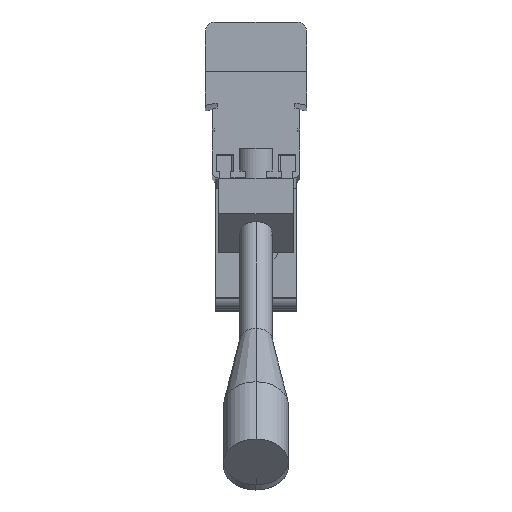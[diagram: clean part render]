
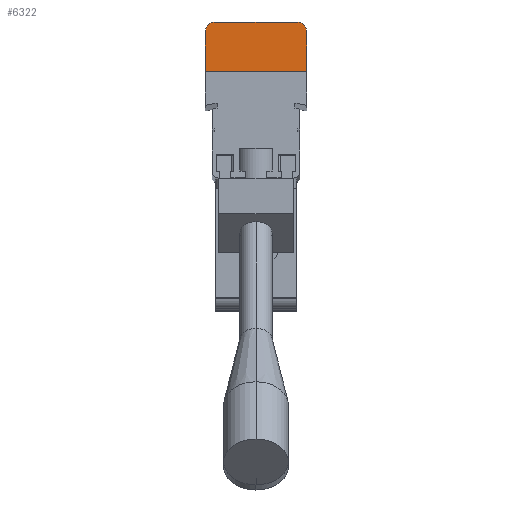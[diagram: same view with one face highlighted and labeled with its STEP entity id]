
A CAD part, top view. The second image highlights one B-rep face of the part: STEP entity #6322.
In plain terms, the highlighted planar face has unit normal (0, 0, 1).
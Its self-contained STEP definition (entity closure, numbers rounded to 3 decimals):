
#2479=DIRECTION('',(-1.,0.,0.));
#2480=VECTOR('',#2479,24.791);
#2481=CARTESIAN_POINT('',(12.395,29.993,1000.133));
#2482=LINE('',#2481,#2480);
#3264=DIRECTION('',(1.,0.,0.));
#3265=VECTOR('',#3264,31.2);
#3266=CARTESIAN_POINT('',(-15.6,14.693,1000.133));
#3267=LINE('',#3266,#3265);
#3285=DIRECTION('',(0.,1.,0.));
#3286=VECTOR('',#3285,12.307);
#3287=CARTESIAN_POINT('',(-15.6,14.693,1000.133));
#3288=LINE('',#3287,#3286);
#3292=CARTESIAN_POINT('',(-12.6,27.,1000.133));
#3293=DIRECTION('',(0.,0.,-1.));
#3294=DIRECTION('',(-1.,0.,0.));
#3295=AXIS2_PLACEMENT_3D('',#3292,#3293,#3294);
#3300=CARTESIAN_POINT('',(12.6,27.,1000.133));
#3301=DIRECTION('',(0.,0.,-1.));
#3302=DIRECTION('',(-0.068,0.998,0.));
#3303=AXIS2_PLACEMENT_3D('',#3300,#3301,#3302);
#3308=DIRECTION('',(0.,-1.,0.));
#3309=VECTOR('',#3308,12.307);
#3310=CARTESIAN_POINT('',(15.6,27.,1000.133));
#3311=LINE('',#3310,#3309);
#5206=CARTESIAN_POINT('',(-15.6,27.,1000.133));
#5207=VERTEX_POINT('',#5206);
#5208=CARTESIAN_POINT('',(-15.6,14.693,1000.133));
#5209=VERTEX_POINT('',#5208);
#5216=CARTESIAN_POINT('',(-12.395,29.993,1000.133));
#5217=VERTEX_POINT('',#5216);
#5218=CARTESIAN_POINT('',(12.395,29.993,1000.133));
#5219=VERTEX_POINT('',#5218);
#5220=CARTESIAN_POINT('',(15.6,27.,1000.133));
#5221=VERTEX_POINT('',#5220);
#5228=CARTESIAN_POINT('',(15.6,14.693,1000.133));
#5229=VERTEX_POINT('',#5228);
#6309=CARTESIAN_POINT('',(0.,0.,1000.133));
#6310=DIRECTION('',(0.,0.,1.));
#6311=DIRECTION('',(-1.,0.,0.));
#6312=AXIS2_PLACEMENT_3D('',#6309,#6310,#6311);
#6313=PLANE('',#6312);
#6314=ORIENTED_EDGE('',*,*,#6301,.F.);
#6315=ORIENTED_EDGE('',*,*,#5752,.T.);
#6316=ORIENTED_EDGE('',*,*,#5774,.T.);
#6317=ORIENTED_EDGE('',*,*,#5788,.F.);
#6318=ORIENTED_EDGE('',*,*,#5802,.T.);
#6319=ORIENTED_EDGE('',*,*,#5820,.T.);
#6320=EDGE_LOOP('',(#6314,#6315,#6316,#6317,#6318,#6319));
#6321=FACE_OUTER_BOUND('',#6320,.F.);
#3296=CIRCLE('',#3295,3.);
#3304=CIRCLE('',#3303,3.);
#5752=EDGE_CURVE('',#5209,#5207,#3288,.T.);
#5774=EDGE_CURVE('',#5207,#5217,#3296,.T.);
#5788=EDGE_CURVE('',#5219,#5217,#2482,.T.);
#5802=EDGE_CURVE('',#5219,#5221,#3304,.T.);
#5820=EDGE_CURVE('',#5221,#5229,#3311,.T.);
#6301=EDGE_CURVE('',#5209,#5229,#3267,.T.);
#6322=ADVANCED_FACE('',(#6321),#6313,.T.);
